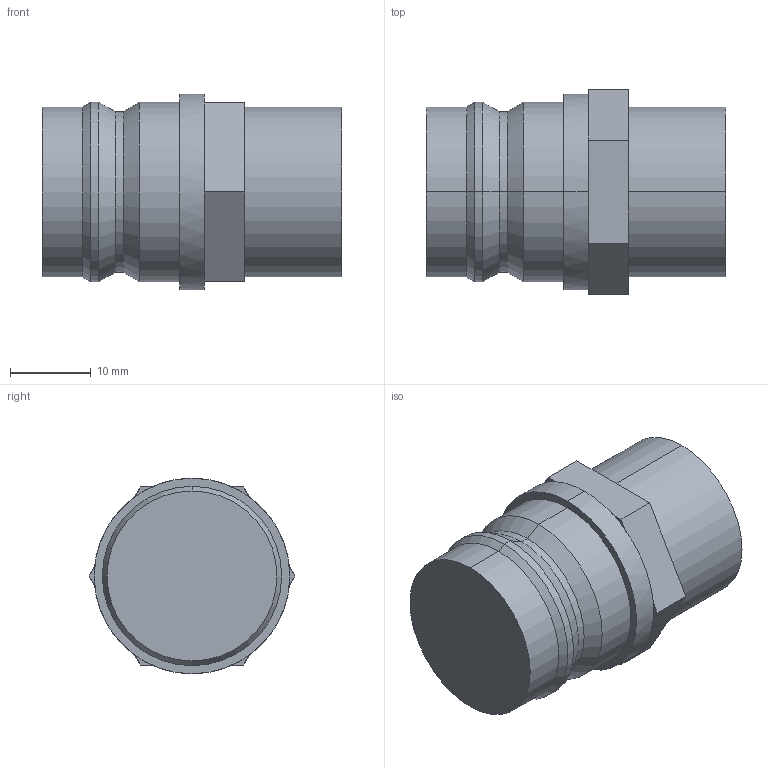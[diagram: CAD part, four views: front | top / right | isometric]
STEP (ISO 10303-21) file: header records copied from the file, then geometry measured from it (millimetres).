
FILE_DESCRIPTION (( 'STEP AP214' ), '1' );
FILE_NAME ('BR601.09 ERB 21.STEP', '2020-12-02T13:50:14', ( '' ), ( '' ), 'SwSTEP 2.0', 'SolidWorks 2018', '' );
FILE_SCHEMA (( 'AUTOMOTIVE_DESIGN' ));
Length unit declared in the file: millimetre
Products named in the file (1): BR601.09 ERB 21
Bounding box: 37 x 25.4 x 24.15 mm (x, y, z)
Volume: 13733.5 mm3; surface area: 3479.1 mm2
Topology: 1 solids, 1 shells, 40 faces, 84 edges, 48 vertices
Faces by surface type: plane 22, cylinder 12, cone 6
Entity records: 1086 total; most frequent: DIRECTION 202, CARTESIAN_POINT 173, ORIENTED_EDGE 168, EDGE_CURVE 84, AXIS2_PLACEMENT_3D 77, LINE 48, VERTEX_POINT 48, VECTOR 48
